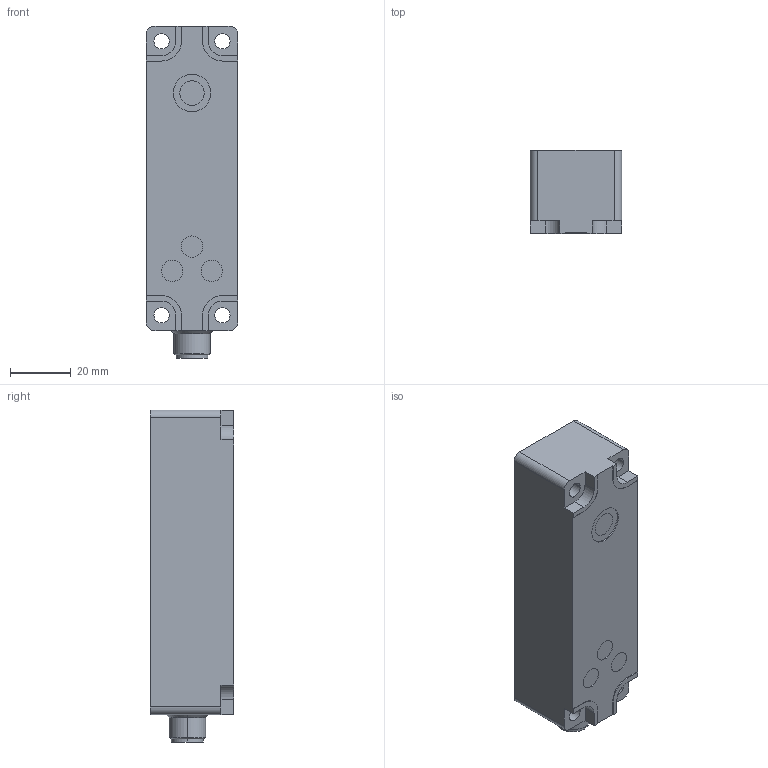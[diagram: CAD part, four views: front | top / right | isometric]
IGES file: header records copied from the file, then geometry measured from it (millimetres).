
Global section: file name: No Iges File Name specified; native system: AutoDesk Inventor R10; preprocessor: AutoDesk Inventor Iges Exporter R10; author: No Author specified; organization: No Organization specified; date: 20070418.171755; units: millimetre
Bounding box: 30 x 27.4 x 109 mm (x, y, z)
Volume: 78809.4 mm3; surface area: 14935.2 mm2
Topology: 1 solids, 1 shells, 152 faces, 392 edges, 239 vertices
Faces by surface type: plane 52, revolution 47, cylinder 29, bspline 10, sphere 10, cone 4
